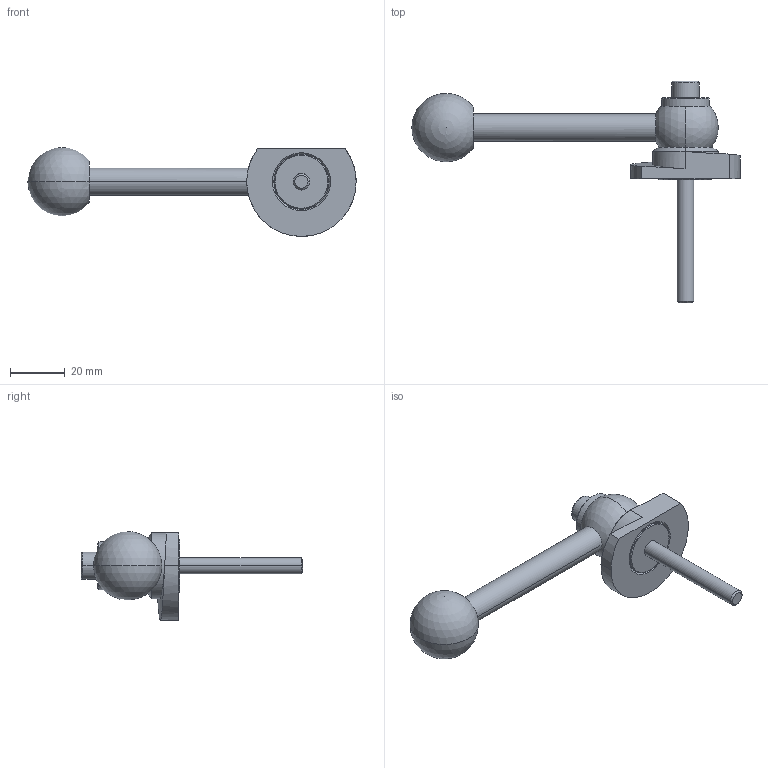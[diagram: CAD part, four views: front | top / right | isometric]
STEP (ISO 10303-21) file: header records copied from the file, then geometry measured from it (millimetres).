
FILE_DESCRIPTION (( 'STEP AP214' ), '1' );
FILE_NAME ('918.1-40-GVS-L-45.step', '2024-05-15T12:59:23', ( '' ), ( '' ), 'SwSTEP 2.0', 'SolidWorks 2022', '' );
FILE_SCHEMA (( 'AUTOMOTIVE_DESIGN' ));
Length unit declared in the file: millimetre
Products named in the file (1): 918.1-40-GVS-L-45
Bounding box: 120 x 81 x 32.5 mm (x, y, z)
Volume: 30780.1 mm3; surface area: 11587.3 mm2
Topology: 1 solids, 1 shells, 62 faces, 141 edges, 89 vertices
Faces by surface type: plane 20, cylinder 19, cone 14, sphere 4, bspline 3, torus 2
Entity records: 2003 total; most frequent: CARTESIAN_POINT 614, DIRECTION 304, ORIENTED_EDGE 262, EDGE_CURVE 131, AXIS2_PLACEMENT_3D 125, VERTEX_POINT 83, EDGE_LOOP 74, CIRCLE 65
